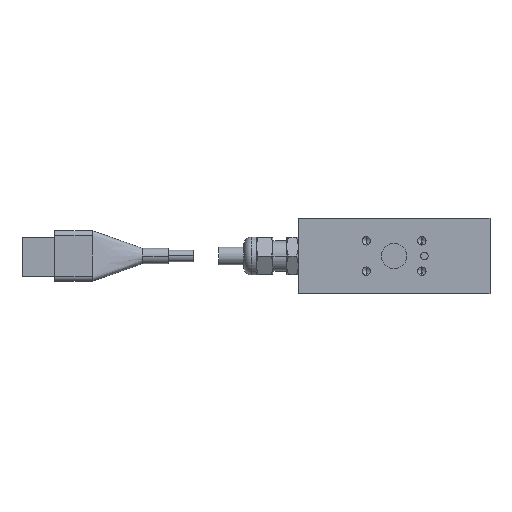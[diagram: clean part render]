
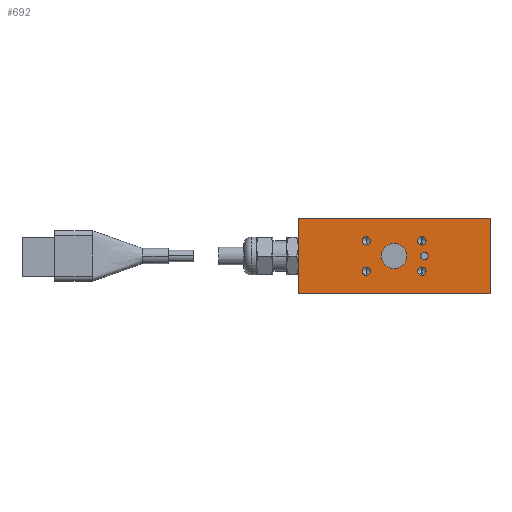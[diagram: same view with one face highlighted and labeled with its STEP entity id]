
A CAD part, front view. The second image highlights one B-rep face of the part: STEP entity #692.
In plain terms, the highlighted planar face has unit normal (0, -1, 0).
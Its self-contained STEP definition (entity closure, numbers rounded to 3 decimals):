
#604 = EDGE_LOOP ( 'NONE', ( #777, #778, #786, #788 ) ) ;
#634 = ORIENTED_EDGE ( 'NONE', *, *, #636, .F. ) ;
#636 = EDGE_CURVE ( 'NONE', #1121, #2897, #8203, .T. ) ;
#672 = EDGE_CURVE ( 'NONE', #677, #1586, #8395, .T. ) ;
#677 = VERTEX_POINT ( 'NONE', #8381 ) ;
#687 = EDGE_LOOP ( 'NONE', ( #634, #792 ) ) ;
#692 = ADVANCED_FACE ( 'NONE', ( #8508, #8505, #8504, #8502, #8500, #8497, #8495 ), #8469, .F. ) ;
#719 = ORIENTED_EDGE ( 'NONE', *, *, #13782, .F. ) ;
#733 = ORIENTED_EDGE ( 'NONE', *, *, #734, .F. ) ;
#734 = EDGE_CURVE ( 'NONE', #1148, #1157, #8804, .T. ) ;
#736 = ORIENTED_EDGE ( 'NONE', *, *, #1160, .F. ) ;
#751 = EDGE_LOOP ( 'NONE', ( #754, #759 ) ) ;
#754 = ORIENTED_EDGE ( 'NONE', *, *, #755, .F. ) ;
#755 = EDGE_CURVE ( 'NONE', #13757, #13753, #8831, .T. ) ;
#759 = ORIENTED_EDGE ( 'NONE', *, *, #13758, .F. ) ;
#761 = EDGE_LOOP ( 'NONE', ( #763, #762 ) ) ;
#762 = ORIENTED_EDGE ( 'NONE', *, *, #13777, .F. ) ;
#763 = ORIENTED_EDGE ( 'NONE', *, *, #764, .F. ) ;
#764 = EDGE_CURVE ( 'NONE', #15277, #15336, #8929, .T. ) ;
#766 = EDGE_LOOP ( 'NONE', ( #767, #771 ) ) ;
#767 = ORIENTED_EDGE ( 'NONE', *, *, #768, .F. ) ;
#768 = EDGE_CURVE ( 'NONE', #1145, #3939, #8922, .T. ) ;
#771 = ORIENTED_EDGE ( 'NONE', *, *, #3564, .F. ) ;
#773 = EDGE_LOOP ( 'NONE', ( #733, #736 ) ) ;
#775 = EDGE_CURVE ( 'NONE', #779, #677, #8897, .T. ) ;
#776 = EDGE_CURVE ( 'NONE', #13780, #13784, #8885, .T. ) ;
#777 = ORIENTED_EDGE ( 'NONE', *, *, #775, .F. ) ;
#778 = ORIENTED_EDGE ( 'NONE', *, *, #783, .F. ) ;
#779 = VERTEX_POINT ( 'NONE', #8989 ) ;
#783 = EDGE_CURVE ( 'NONE', #785, #779, #8987, .T. ) ;
#785 = VERTEX_POINT ( 'NONE', #8972 ) ;
#786 = ORIENTED_EDGE ( 'NONE', *, *, #787, .F. ) ;
#787 = EDGE_CURVE ( 'NONE', #1586, #785, #8970, .T. ) ;
#788 = ORIENTED_EDGE ( 'NONE', *, *, #672, .F. ) ;
#789 = EDGE_LOOP ( 'NONE', ( #791, #719 ) ) ;
#791 = ORIENTED_EDGE ( 'NONE', *, *, #776, .F. ) ;
#792 = ORIENTED_EDGE ( 'NONE', *, *, #2888, .F. ) ;
#1121 = VERTEX_POINT ( 'NONE', #1468 ) ;
#1145 = VERTEX_POINT ( 'NONE', #1551 ) ;
#1148 = VERTEX_POINT ( 'NONE', #1549 ) ;
#1157 = VERTEX_POINT ( 'NONE', #1599 ) ;
#1160 = EDGE_CURVE ( 'NONE', #1157, #1148, #1723, .T. ) ;
#1468 = CARTESIAN_POINT ( 'NONE',  ( -11., 0., 4.35 ) ) ;
#1549 = CARTESIAN_POINT ( 'NONE',  ( 11., 0., 4.35 ) ) ;
#1551 = CARTESIAN_POINT ( 'NONE',  ( -11., 0., -7.65 ) ) ;
#1586 = VERTEX_POINT ( 'NONE', #2040 ) ;
#1599 = CARTESIAN_POINT ( 'NONE',  ( 11., 0., 7.65 ) ) ;
#1717 = DIRECTION ( 'NONE',  ( 0., 0., -1. ) ) ;
#1719 = DIRECTION ( 'NONE',  ( 0., -1., 0. ) ) ;
#1721 = CARTESIAN_POINT ( 'NONE',  ( 11., 0., 6. ) ) ;
#1722 = AXIS2_PLACEMENT_3D ( 'NONE', #1721, #1719, #1717 ) ;
#1723 = CIRCLE ( 'NONE', #1722, 1.65 ) ;
#2040 = CARTESIAN_POINT ( 'NONE',  ( -38., 0., 15. ) ) ;
#2888 = EDGE_CURVE ( 'NONE', #2897, #1121, #7437, .T. ) ;
#2897 = VERTEX_POINT ( 'NONE', #7507 ) ;
#3564 = EDGE_CURVE ( 'NONE', #3939, #1145, #9986, .T. ) ;
#3939 = VERTEX_POINT ( 'NONE', #11149 ) ;
#7428 = DIRECTION ( 'NONE',  ( 0., 0., -1. ) ) ;
#7431 = DIRECTION ( 'NONE',  ( 0., -1., 0. ) ) ;
#7434 = CARTESIAN_POINT ( 'NONE',  ( -11., 0., 6. ) ) ;
#7436 = AXIS2_PLACEMENT_3D ( 'NONE', #7434, #7431, #7428 ) ;
#7437 = CIRCLE ( 'NONE', #7436, 1.65 ) ;
#7507 = CARTESIAN_POINT ( 'NONE',  ( -11., 0., 7.65 ) ) ;
#8196 = DIRECTION ( 'NONE',  ( 0., 0., -1. ) ) ;
#8198 = DIRECTION ( 'NONE',  ( 0., -1., 0. ) ) ;
#8199 = CARTESIAN_POINT ( 'NONE',  ( -11., 0., 6. ) ) ;
#8201 = AXIS2_PLACEMENT_3D ( 'NONE', #8199, #8198, #8196 ) ;
#8203 = CIRCLE ( 'NONE', #8201, 1.65 ) ;
#8381 = CARTESIAN_POINT ( 'NONE',  ( -38., 0., -15. ) ) ;
#8391 = DIRECTION ( 'NONE',  ( 0., 0., 1. ) ) ;
#8392 = VECTOR ( 'NONE', #8391, 1000. ) ;
#8394 = CARTESIAN_POINT ( 'NONE',  ( -38., 0., 15. ) ) ;
#8395 = LINE ( 'NONE', #8394, #8392 ) ;
#8460 = DIRECTION ( 'NONE',  ( 0., 0., 1. ) ) ;
#8461 = DIRECTION ( 'NONE',  ( 0., 1., 0. ) ) ;
#8462 = CARTESIAN_POINT ( 'NONE',  ( 38., 0., -15. ) ) ;
#8463 = AXIS2_PLACEMENT_3D ( 'NONE', #8462, #8461, #8460 ) ;
#8469 = PLANE ( 'NONE',  #8463 ) ;
#8495 = FACE_BOUND ( 'NONE', #773, .T. ) ;
#8497 = FACE_BOUND ( 'NONE', #766, .T. ) ;
#8500 = FACE_BOUND ( 'NONE', #761, .T. ) ;
#8502 = FACE_BOUND ( 'NONE', #751, .T. ) ;
#8504 = FACE_BOUND ( 'NONE', #789, .T. ) ;
#8505 = FACE_OUTER_BOUND ( 'NONE', #604, .T. ) ;
#8508 = FACE_BOUND ( 'NONE', #687, .T. ) ;
#8799 = DIRECTION ( 'NONE',  ( 0., 0., -1. ) ) ;
#8800 = DIRECTION ( 'NONE',  ( 0., -1., 0. ) ) ;
#8801 = CARTESIAN_POINT ( 'NONE',  ( 11., 0., 6. ) ) ;
#8802 = AXIS2_PLACEMENT_3D ( 'NONE', #8801, #8800, #8799 ) ;
#8804 = CIRCLE ( 'NONE', #8802, 1.65 ) ;
#8822 = DIRECTION ( 'NONE',  ( 0., 0., -1. ) ) ;
#8825 = DIRECTION ( 'NONE',  ( 0., -1., 0. ) ) ;
#8827 = CARTESIAN_POINT ( 'NONE',  ( 12., 0., 0. ) ) ;
#8829 = AXIS2_PLACEMENT_3D ( 'NONE', #8827, #8825, #8822 ) ;
#8831 = CIRCLE ( 'NONE', #8829, 1.5 ) ;
#8880 = CARTESIAN_POINT ( 'NONE',  ( 0., 0., 0. ) ) ;
#8882 = AXIS2_PLACEMENT_3D ( 'NONE', #8880, #8992, #8991 ) ;
#8885 = CIRCLE ( 'NONE', #8882, 5. ) ;
#8893 = DIRECTION ( 'NONE',  ( -1., 0., 0. ) ) ;
#8895 = VECTOR ( 'NONE', #8893, 1000. ) ;
#8896 = CARTESIAN_POINT ( 'NONE',  ( -38., 0., -15. ) ) ;
#8897 = LINE ( 'NONE', #8896, #8895 ) ;
#8917 = DIRECTION ( 'NONE',  ( 0., 0., -1. ) ) ;
#8919 = DIRECTION ( 'NONE',  ( 0., -1., 0. ) ) ;
#8920 = CARTESIAN_POINT ( 'NONE',  ( -11., 0., -6. ) ) ;
#8921 = AXIS2_PLACEMENT_3D ( 'NONE', #8920, #8919, #8917 ) ;
#8922 = CIRCLE ( 'NONE', #8921, 1.65 ) ;
#8923 = DIRECTION ( 'NONE',  ( 0., 0., -1. ) ) ;
#8925 = DIRECTION ( 'NONE',  ( 0., -1., 0. ) ) ;
#8926 = CARTESIAN_POINT ( 'NONE',  ( 11., 0., -6. ) ) ;
#8928 = AXIS2_PLACEMENT_3D ( 'NONE', #8926, #8925, #8923 ) ;
#8929 = CIRCLE ( 'NONE', #8928, 1.65 ) ;
#8966 = DIRECTION ( 'NONE',  ( 1., 0., 0. ) ) ;
#8967 = VECTOR ( 'NONE', #8966, 1000. ) ;
#8968 = CARTESIAN_POINT ( 'NONE',  ( -38., 0., 15. ) ) ;
#8970 = LINE ( 'NONE', #8968, #8967 ) ;
#8972 = CARTESIAN_POINT ( 'NONE',  ( 38., 0., 15. ) ) ;
#8983 = DIRECTION ( 'NONE',  ( 0., 0., -1. ) ) ;
#8985 = VECTOR ( 'NONE', #8983, 1000. ) ;
#8986 = CARTESIAN_POINT ( 'NONE',  ( 38., 0., 15. ) ) ;
#8987 = LINE ( 'NONE', #8986, #8985 ) ;
#8989 = CARTESIAN_POINT ( 'NONE',  ( 38., 0., -15. ) ) ;
#8991 = DIRECTION ( 'NONE',  ( 0., 0., -1. ) ) ;
#8992 = DIRECTION ( 'NONE',  ( 0., -1., 0. ) ) ;
#9877 = CARTESIAN_POINT ( 'NONE',  ( -11., 0., -6. ) ) ;
#9982 = DIRECTION ( 'NONE',  ( 0., 0., -1. ) ) ;
#9983 = DIRECTION ( 'NONE',  ( 0., -1., 0. ) ) ;
#9985 = AXIS2_PLACEMENT_3D ( 'NONE', #9877, #9983, #9982 ) ;
#9986 = CIRCLE ( 'NONE', #9985, 1.65 ) ;
#11149 = CARTESIAN_POINT ( 'NONE',  ( -11., 0., -4.35 ) ) ;
#13753 = VERTEX_POINT ( 'NONE', #14626 ) ;
#13757 = VERTEX_POINT ( 'NONE', #14620 ) ;
#13758 = EDGE_CURVE ( 'NONE', #13753, #13757, #14619, .T. ) ;
#13777 = EDGE_CURVE ( 'NONE', #15336, #15277, #14728, .T. ) ;
#13780 = VERTEX_POINT ( 'NONE', #14724 ) ;
#13782 = EDGE_CURVE ( 'NONE', #13784, #13780, #14723, .T. ) ;
#13784 = VERTEX_POINT ( 'NONE', #14717 ) ;
#14618 = AXIS2_PLACEMENT_3D ( 'NONE', #14677, #14676, #14675 ) ;
#14619 = CIRCLE ( 'NONE', #14618, 1.5 ) ;
#14620 = CARTESIAN_POINT ( 'NONE',  ( 12., 0., -1.5 ) ) ;
#14626 = CARTESIAN_POINT ( 'NONE',  ( 12., 0., 1.5 ) ) ;
#14675 = DIRECTION ( 'NONE',  ( 0., 0., -1. ) ) ;
#14676 = DIRECTION ( 'NONE',  ( 0., -1., 0. ) ) ;
#14677 = CARTESIAN_POINT ( 'NONE',  ( 12., 0., 0. ) ) ;
#14717 = CARTESIAN_POINT ( 'NONE',  ( 0., 0., 5. ) ) ;
#14719 = DIRECTION ( 'NONE',  ( 0., 0., -1. ) ) ;
#14720 = DIRECTION ( 'NONE',  ( 0., -1., 0. ) ) ;
#14721 = CARTESIAN_POINT ( 'NONE',  ( 0., 0., 0. ) ) ;
#14722 = AXIS2_PLACEMENT_3D ( 'NONE', #14721, #14720, #14719 ) ;
#14723 = CIRCLE ( 'NONE', #14722, 5. ) ;
#14724 = CARTESIAN_POINT ( 'NONE',  ( 0., 0., -5. ) ) ;
#14725 = DIRECTION ( 'NONE',  ( 0., 0., -1. ) ) ;
#14726 = DIRECTION ( 'NONE',  ( 0., -1., 0. ) ) ;
#14727 = AXIS2_PLACEMENT_3D ( 'NONE', #14733, #14726, #14725 ) ;
#14728 = CIRCLE ( 'NONE', #14727, 1.65 ) ;
#14733 = CARTESIAN_POINT ( 'NONE',  ( 11., 0., -6. ) ) ;
#14823 = CARTESIAN_POINT ( 'NONE',  ( 11., 0., -4.35 ) ) ;
#14828 = CARTESIAN_POINT ( 'NONE',  ( 11., 0., -7.65 ) ) ;
#15277 = VERTEX_POINT ( 'NONE', #14828 ) ;
#15336 = VERTEX_POINT ( 'NONE', #14823 ) ;
